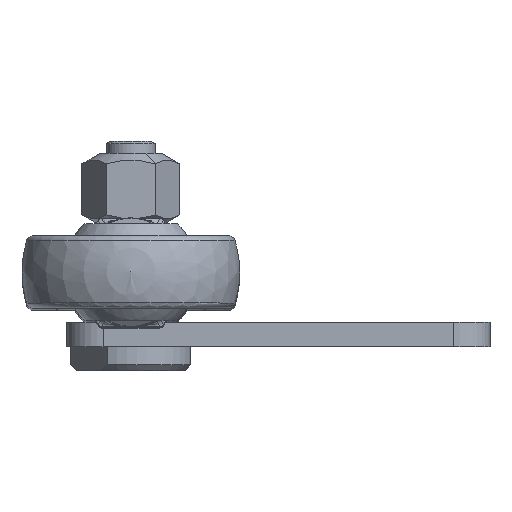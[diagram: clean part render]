
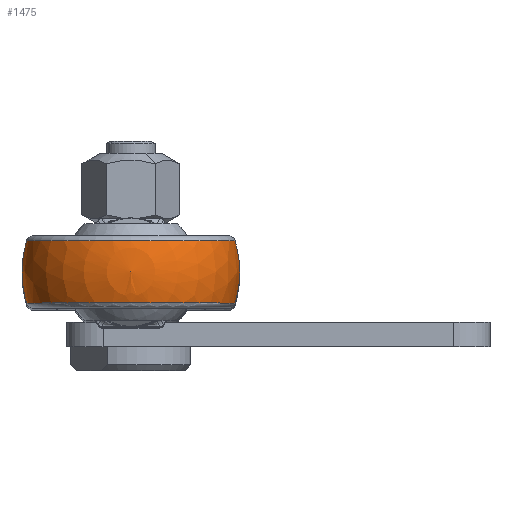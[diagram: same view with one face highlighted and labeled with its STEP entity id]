
A CAD part, top view. The second image highlights one B-rep face of the part: STEP entity #1475.
In plain terms, the highlighted spherical face has radius 9 mm.
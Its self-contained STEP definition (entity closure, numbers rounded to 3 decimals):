
#858 = ORIENTED_EDGE ( 'NONE', *, *, #859, .T. ) ;
#859 = EDGE_CURVE ( 'NONE', #1039, #860, #6205, .T. ) ;
#860 = VERTEX_POINT ( 'NONE', #6239 ) ;
#871 = ORIENTED_EDGE ( 'NONE', *, *, #872, .F. ) ;
#872 = EDGE_CURVE ( 'NONE', #873, #860, #6217, .T. ) ;
#873 = VERTEX_POINT ( 'NONE', #6243 ) ;
#874 = ORIENTED_EDGE ( 'NONE', *, *, #875, .T. ) ;
#875 = EDGE_CURVE ( 'NONE', #873, #1427, #6206, .T. ) ;
#931 = EDGE_CURVE ( 'NONE', #932, #1039, #6457, .T. ) ;
#932 = VERTEX_POINT ( 'NONE', #6429 ) ;
#1039 = VERTEX_POINT ( 'NONE', #6855 ) ;
#1304 = EDGE_LOOP ( 'NONE', ( #1305, #1424, #1423, #858, #871, #874 ) ) ;
#1305 = ORIENTED_EDGE ( 'NONE', *, *, #1306, .F. ) ;
#1306 = EDGE_CURVE ( 'NONE', #1426, #1427, #7601, .T. ) ;
#1423 = ORIENTED_EDGE ( 'NONE', *, *, #931, .T. ) ;
#1424 = ORIENTED_EDGE ( 'NONE', *, *, #1425, .T. ) ;
#1425 = EDGE_CURVE ( 'NONE', #1426, #932, #11401, .T. ) ;
#1426 = VERTEX_POINT ( 'NONE', #11396 ) ;
#1427 = VERTEX_POINT ( 'NONE', #11395 ) ;
#1475 = ADVANCED_FACE ( 'NONE', ( #8011 ), #7996, .T. ) ;
#6200 = AXIS2_PLACEMENT_3D ( 'NONE', #6265, #6263, #6268 ) ;
#6201 = DIRECTION ( 'NONE',  ( 0., -1., 0. ) ) ;
#6202 = DIRECTION ( 'NONE',  ( 0., 0., 1. ) ) ;
#6203 = CARTESIAN_POINT ( 'NONE',  ( 9., 0., 100. ) ) ;
#6204 = AXIS2_PLACEMENT_3D ( 'NONE', #6203, #6202, #6201 ) ;
#6205 = CIRCLE ( 'NONE', #6204, 9. ) ;
#6206 = CIRCLE ( 'NONE', #6200, 8.625 ) ;
#6214 = DIRECTION ( 'NONE',  ( -1., 0., 0. ) ) ;
#6215 = DIRECTION ( 'NONE',  ( 0., 0., -1. ) ) ;
#6216 = AXIS2_PLACEMENT_3D ( 'NONE', #6245, #6215, #6214 ) ;
#6217 = CIRCLE ( 'NONE', #6216, 9. ) ;
#6239 = CARTESIAN_POINT ( 'NONE',  ( 0., 0., 100. ) ) ;
#6243 = CARTESIAN_POINT ( 'NONE',  ( 0.375, -2.571, 100. ) ) ;
#6245 = CARTESIAN_POINT ( 'NONE',  ( 9., 0., 100. ) ) ;
#6263 = DIRECTION ( 'NONE',  ( 0., 1., 0. ) ) ;
#6265 = CARTESIAN_POINT ( 'NONE',  ( 9., -2.571, 100. ) ) ;
#6268 = DIRECTION ( 'NONE',  ( 0., 0., 1. ) ) ;
#6429 = CARTESIAN_POINT ( 'NONE',  ( 17.625, 2.571, 100. ) ) ;
#6430 = DIRECTION ( 'NONE',  ( -1., 0., 0. ) ) ;
#6431 = DIRECTION ( 'NONE',  ( 0., -1., 0. ) ) ;
#6432 = CARTESIAN_POINT ( 'NONE',  ( 9., 2.571, 100. ) ) ;
#6433 = AXIS2_PLACEMENT_3D ( 'NONE', #6432, #6431, #6430 ) ;
#6457 = CIRCLE ( 'NONE', #6433, 8.625 ) ;
#6855 = CARTESIAN_POINT ( 'NONE',  ( 0.375, 2.571, 100. ) ) ;
#7601 = CIRCLE ( 'NONE', #7627, 9. ) ;
#7607 = DIRECTION ( 'NONE',  ( -1., 0., 0. ) ) ;
#7608 = DIRECTION ( 'NONE',  ( 0., 0., -1. ) ) ;
#7609 = CARTESIAN_POINT ( 'NONE',  ( 9., 0., 100. ) ) ;
#7627 = AXIS2_PLACEMENT_3D ( 'NONE', #7609, #7608, #7607 ) ;
#7996 = SPHERICAL_SURFACE ( 'NONE', #8133, 9. ) ;
#8011 = FACE_OUTER_BOUND ( 'NONE', #1304, .T. ) ;
#8130 = DIRECTION ( 'NONE',  ( 0., -1., 0. ) ) ;
#8131 = DIRECTION ( 'NONE',  ( 0., 0., 1. ) ) ;
#8132 = CARTESIAN_POINT ( 'NONE',  ( 9., 0., 100. ) ) ;
#8133 = AXIS2_PLACEMENT_3D ( 'NONE', #8132, #8131, #8130 ) ;
#11395 = CARTESIAN_POINT ( 'NONE',  ( 17.625, -2.571, 100. ) ) ;
#11396 = CARTESIAN_POINT ( 'NONE',  ( 18., 0., 100. ) ) ;
#11397 = DIRECTION ( 'NONE',  ( 0., -1., 0. ) ) ;
#11398 = DIRECTION ( 'NONE',  ( 0., 0., 1. ) ) ;
#11399 = CARTESIAN_POINT ( 'NONE',  ( 9., 0., 100. ) ) ;
#11400 = AXIS2_PLACEMENT_3D ( 'NONE', #11399, #11398, #11397 ) ;
#11401 = CIRCLE ( 'NONE', #11400, 9. ) ;
